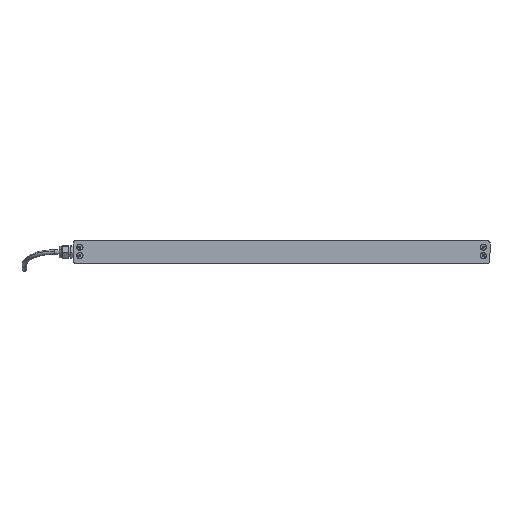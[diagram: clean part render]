
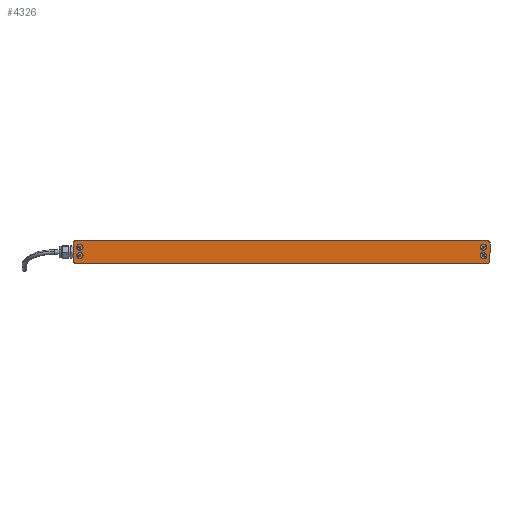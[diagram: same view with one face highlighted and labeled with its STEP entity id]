
A CAD part, left-side view. The second image highlights one B-rep face of the part: STEP entity #4326.
In plain terms, the highlighted planar face has unit normal (-1, 0, 0) as drawn and (0, 0, -1) by its records, which use the part's own axes.
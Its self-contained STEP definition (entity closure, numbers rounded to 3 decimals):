
#615 = FACE_BOUND ( 'NONE', #14796, .T. ) ;
#660 = VERTEX_POINT ( 'NONE', #11874 ) ;
#749 = EDGE_CURVE ( 'NONE', #12018, #9963, #2921, .T. ) ;
#786 = AXIS2_PLACEMENT_3D ( 'NONE', #13820, #11333, #13505 ) ;
#934 = EDGE_CURVE ( 'NONE', #4577, #1912, #2454, .T. ) ;
#1250 = CARTESIAN_POINT ( 'NONE',  ( 368., -16., 0. ) ) ;
#1320 = EDGE_LOOP ( 'NONE', ( #2103, #6625 ) ) ;
#1475 = CARTESIAN_POINT ( 'NONE',  ( -364., 20., 0. ) ) ;
#1617 = EDGE_LOOP ( 'NONE', ( #11458, #6738 ) ) ;
#1799 = VERTEX_POINT ( 'NONE', #7904 ) ;
#1847 = CIRCLE ( 'NONE', #12434, 4. ) ;
#1881 = DIRECTION ( 'NONE',  ( 0., 0., 1. ) ) ;
#1899 = EDGE_CURVE ( 'NONE', #8826, #6402, #10324, .T. ) ;
#1912 = VERTEX_POINT ( 'NONE', #15496 ) ;
#1934 = DIRECTION ( 'NONE',  ( -1., 0., 0. ) ) ;
#2103 = ORIENTED_EDGE ( 'NONE', *, *, #5759, .F. ) ;
#2454 = LINE ( 'NONE', #11772, #4647 ) ;
#2569 = DIRECTION ( 'NONE',  ( -1., 0., 0. ) ) ;
#2684 = CARTESIAN_POINT ( 'NONE',  ( 364., -16., 0. ) ) ;
#2696 = CARTESIAN_POINT ( 'NONE',  ( 356.3, -6.3, 0. ) ) ;
#2921 = CIRCLE ( 'NONE', #5684, 5.6 ) ;
#2928 = CARTESIAN_POINT ( 'NONE',  ( -356.3, -6.3, 0. ) ) ;
#3086 = CIRCLE ( 'NONE', #4581, 5.6 ) ;
#3225 = VERTEX_POINT ( 'NONE', #9242 ) ;
#3234 = AXIS2_PLACEMENT_3D ( 'NONE', #12831, #1881, #5411 ) ;
#3266 = ORIENTED_EDGE ( 'NONE', *, *, #8032, .F. ) ;
#3419 = ORIENTED_EDGE ( 'NONE', *, *, #9577, .F. ) ;
#3505 = CARTESIAN_POINT ( 'NONE',  ( 350.7, -6.3, 0. ) ) ;
#3849 = DIRECTION ( 'NONE',  ( 0., 0., -1. ) ) ;
#3863 = ORIENTED_EDGE ( 'NONE', *, *, #6395, .F. ) ;
#4060 = LINE ( 'NONE', #6449, #12330 ) ;
#4250 = PLANE ( 'NONE',  #13929 ) ;
#4326 = ADVANCED_FACE ( 'NONE', ( #6640, #11432, #615, #5436, #15088 ), #4250, .T. ) ;
#4367 = AXIS2_PLACEMENT_3D ( 'NONE', #15602, #4852, #10837 ) ;
#4411 = CARTESIAN_POINT ( 'NONE',  ( -368., 16., 0. ) ) ;
#4498 = CIRCLE ( 'NONE', #3234, 4. ) ;
#4543 = VERTEX_POINT ( 'NONE', #5986 ) ;
#4577 = VERTEX_POINT ( 'NONE', #1250 ) ;
#4581 = AXIS2_PLACEMENT_3D ( 'NONE', #6813, #12747, #1934 ) ;
#4605 = DIRECTION ( 'NONE',  ( 0., 0., -1. ) ) ;
#4647 = VECTOR ( 'NONE', #14319, 1000. ) ;
#4751 = ORIENTED_EDGE ( 'NONE', *, *, #11352, .F. ) ;
#4852 = DIRECTION ( 'NONE',  ( 0., 0., 1. ) ) ;
#4892 = EDGE_CURVE ( 'NONE', #4543, #6080, #12640, .T. ) ;
#4913 = VERTEX_POINT ( 'NONE', #3505 ) ;
#4950 = EDGE_CURVE ( 'NONE', #1799, #15058, #12134, .T. ) ;
#4977 = EDGE_LOOP ( 'NONE', ( #3266, #5706 ) ) ;
#5024 = DIRECTION ( 'NONE',  ( -1., 0., 0. ) ) ;
#5063 = AXIS2_PLACEMENT_3D ( 'NONE', #2928, #13586, #15096 ) ;
#5175 = CARTESIAN_POINT ( 'NONE',  ( -350.7, -6.3, 0. ) ) ;
#5344 = CARTESIAN_POINT ( 'NONE',  ( -364., -20., 0. ) ) ;
#5411 = DIRECTION ( 'NONE',  ( -1., 0., 0. ) ) ;
#5436 = FACE_BOUND ( 'NONE', #1320, .T. ) ;
#5585 = CIRCLE ( 'NONE', #5849, 5.6 ) ;
#5674 = ORIENTED_EDGE ( 'NONE', *, *, #934, .F. ) ;
#5684 = AXIS2_PLACEMENT_3D ( 'NONE', #13766, #10190, #14797 ) ;
#5706 = ORIENTED_EDGE ( 'NONE', *, *, #749, .F. ) ;
#5759 = EDGE_CURVE ( 'NONE', #3225, #9324, #13664, .T. ) ;
#5849 = AXIS2_PLACEMENT_3D ( 'NONE', #7480, #3849, #5024 ) ;
#5894 = DIRECTION ( 'NONE',  ( 0., 0., -1. ) ) ;
#5986 = CARTESIAN_POINT ( 'NONE',  ( -368., -16., 0. ) ) ;
#5991 = CARTESIAN_POINT ( 'NONE',  ( -364., -20., 0. ) ) ;
#6060 = VERTEX_POINT ( 'NONE', #15006 ) ;
#6080 = VERTEX_POINT ( 'NONE', #5344 ) ;
#6085 = DIRECTION ( 'NONE',  ( -1., 0., 0. ) ) ;
#6124 = DIRECTION ( 'NONE',  ( -1., 0., 0. ) ) ;
#6280 = DIRECTION ( 'NONE',  ( 0., -1., 0. ) ) ;
#6327 = AXIS2_PLACEMENT_3D ( 'NONE', #14349, #14418, #2569 ) ;
#6395 = EDGE_CURVE ( 'NONE', #9184, #4543, #4060, .T. ) ;
#6402 = VERTEX_POINT ( 'NONE', #1475 ) ;
#6449 = CARTESIAN_POINT ( 'NONE',  ( -368., -16., 0. ) ) ;
#6523 = EDGE_CURVE ( 'NONE', #1912, #8826, #4498, .T. ) ;
#6625 = ORIENTED_EDGE ( 'NONE', *, *, #14102, .F. ) ;
#6640 = FACE_BOUND ( 'NONE', #4977, .T. ) ;
#6708 = ORIENTED_EDGE ( 'NONE', *, *, #4950, .F. ) ;
#6716 = DIRECTION ( 'NONE',  ( -1., 0., 0. ) ) ;
#6738 = ORIENTED_EDGE ( 'NONE', *, *, #13470, .F. ) ;
#6792 = DIRECTION ( 'NONE',  ( -1., 0., 0. ) ) ;
#6813 = CARTESIAN_POINT ( 'NONE',  ( -356.3, -6.3, 0. ) ) ;
#6850 = VECTOR ( 'NONE', #6792, 1000. ) ;
#7101 = AXIS2_PLACEMENT_3D ( 'NONE', #2696, #12250, #6085 ) ;
#7176 = DIRECTION ( 'NONE',  ( 1., 0., 0. ) ) ;
#7480 = CARTESIAN_POINT ( 'NONE',  ( 356.3, -6.3, 0. ) ) ;
#7482 = DIRECTION ( 'NONE',  ( 0., 0., 1. ) ) ;
#7659 = EDGE_LOOP ( 'NONE', ( #12707, #5674, #8907, #4751, #10192, #3863, #13290, #14759 ) ) ;
#7755 = CARTESIAN_POINT ( 'NONE',  ( 361.9, 8.5, 0. ) ) ;
#7892 = CARTESIAN_POINT ( 'NONE',  ( 364., 16., 0. ) ) ;
#7904 = CARTESIAN_POINT ( 'NONE',  ( -350.7, 8.5, 0. ) ) ;
#8032 = EDGE_CURVE ( 'NONE', #9963, #12018, #11324, .T. ) ;
#8131 = CARTESIAN_POINT ( 'NONE',  ( -364., 20., 0. ) ) ;
#8637 = CARTESIAN_POINT ( 'NONE',  ( -356.3, 8.5, 0. ) ) ;
#8826 = VERTEX_POINT ( 'NONE', #15125 ) ;
#8861 = CIRCLE ( 'NONE', #786, 5.6 ) ;
#8907 = ORIENTED_EDGE ( 'NONE', *, *, #10485, .F. ) ;
#9090 = AXIS2_PLACEMENT_3D ( 'NONE', #8637, #5894, #6124 ) ;
#9184 = VERTEX_POINT ( 'NONE', #4411 ) ;
#9242 = CARTESIAN_POINT ( 'NONE',  ( -361.9, -6.3, 0. ) ) ;
#9324 = VERTEX_POINT ( 'NONE', #5175 ) ;
#9577 = EDGE_CURVE ( 'NONE', #15058, #1799, #8861, .T. ) ;
#9963 = VERTEX_POINT ( 'NONE', #14729 ) ;
#10190 = DIRECTION ( 'NONE',  ( 0., 0., -1. ) ) ;
#10192 = ORIENTED_EDGE ( 'NONE', *, *, #4892, .F. ) ;
#10206 = CARTESIAN_POINT ( 'NONE',  ( -361.9, 8.5, 0. ) ) ;
#10324 = LINE ( 'NONE', #8131, #6850 ) ;
#10485 = EDGE_CURVE ( 'NONE', #6060, #4577, #1847, .T. ) ;
#10837 = DIRECTION ( 'NONE',  ( -1., 0., 0. ) ) ;
#11324 = CIRCLE ( 'NONE', #12120, 5.6 ) ;
#11333 = DIRECTION ( 'NONE',  ( 0., 0., -1. ) ) ;
#11352 = EDGE_CURVE ( 'NONE', #6080, #6060, #14232, .T. ) ;
#11432 = FACE_BOUND ( 'NONE', #1617, .T. ) ;
#11458 = ORIENTED_EDGE ( 'NONE', *, *, #13724, .F. ) ;
#11630 = VECTOR ( 'NONE', #7176, 1000. ) ;
#11772 = CARTESIAN_POINT ( 'NONE',  ( 368., -16., 0. ) ) ;
#11874 = CARTESIAN_POINT ( 'NONE',  ( 361.9, -6.3, 0. ) ) ;
#12018 = VERTEX_POINT ( 'NONE', #7755 ) ;
#12120 = AXIS2_PLACEMENT_3D ( 'NONE', #15434, #4605, #14260 ) ;
#12134 = CIRCLE ( 'NONE', #9090, 5.6 ) ;
#12250 = DIRECTION ( 'NONE',  ( 0., 0., -1. ) ) ;
#12330 = VECTOR ( 'NONE', #6280, 1000. ) ;
#12386 = DIRECTION ( 'NONE',  ( 1., 0., 0. ) ) ;
#12434 = AXIS2_PLACEMENT_3D ( 'NONE', #2684, #7482, #12386 ) ;
#12640 = CIRCLE ( 'NONE', #6327, 4. ) ;
#12707 = ORIENTED_EDGE ( 'NONE', *, *, #6523, .F. ) ;
#12720 = DIRECTION ( 'NONE',  ( 0., 0., -1. ) ) ;
#12747 = DIRECTION ( 'NONE',  ( 0., 0., -1. ) ) ;
#12831 = CARTESIAN_POINT ( 'NONE',  ( 364., 16., 0. ) ) ;
#12957 = CIRCLE ( 'NONE', #4367, 4. ) ;
#13290 = ORIENTED_EDGE ( 'NONE', *, *, #14930, .F. ) ;
#13470 = EDGE_CURVE ( 'NONE', #660, #4913, #13666, .T. ) ;
#13505 = DIRECTION ( 'NONE',  ( -1., 0., 0. ) ) ;
#13586 = DIRECTION ( 'NONE',  ( 0., 0., -1. ) ) ;
#13664 = CIRCLE ( 'NONE', #5063, 5.6 ) ;
#13666 = CIRCLE ( 'NONE', #7101, 5.6 ) ;
#13724 = EDGE_CURVE ( 'NONE', #4913, #660, #5585, .T. ) ;
#13766 = CARTESIAN_POINT ( 'NONE',  ( 356.3, 8.5, 0. ) ) ;
#13820 = CARTESIAN_POINT ( 'NONE',  ( -356.3, 8.5, 0. ) ) ;
#13929 = AXIS2_PLACEMENT_3D ( 'NONE', #7892, #12720, #6716 ) ;
#14102 = EDGE_CURVE ( 'NONE', #9324, #3225, #3086, .T. ) ;
#14232 = LINE ( 'NONE', #5991, #11630 ) ;
#14260 = DIRECTION ( 'NONE',  ( -1., 0., 0. ) ) ;
#14319 = DIRECTION ( 'NONE',  ( 0., 1., 0. ) ) ;
#14349 = CARTESIAN_POINT ( 'NONE',  ( -364., -16., 0. ) ) ;
#14418 = DIRECTION ( 'NONE',  ( 0., 0., 1. ) ) ;
#14729 = CARTESIAN_POINT ( 'NONE',  ( 350.7, 8.5, 0. ) ) ;
#14759 = ORIENTED_EDGE ( 'NONE', *, *, #1899, .F. ) ;
#14796 = EDGE_LOOP ( 'NONE', ( #3419, #6708 ) ) ;
#14797 = DIRECTION ( 'NONE',  ( -1., 0., 0. ) ) ;
#14930 = EDGE_CURVE ( 'NONE', #6402, #9184, #12957, .T. ) ;
#15006 = CARTESIAN_POINT ( 'NONE',  ( 364., -20., 0. ) ) ;
#15058 = VERTEX_POINT ( 'NONE', #10206 ) ;
#15088 = FACE_OUTER_BOUND ( 'NONE', #7659, .T. ) ;
#15096 = DIRECTION ( 'NONE',  ( -1., 0., 0. ) ) ;
#15125 = CARTESIAN_POINT ( 'NONE',  ( 364., 20., 0. ) ) ;
#15434 = CARTESIAN_POINT ( 'NONE',  ( 356.3, 8.5, 0. ) ) ;
#15496 = CARTESIAN_POINT ( 'NONE',  ( 368., 16., 0. ) ) ;
#15602 = CARTESIAN_POINT ( 'NONE',  ( -364., 16., 0. ) ) ;
